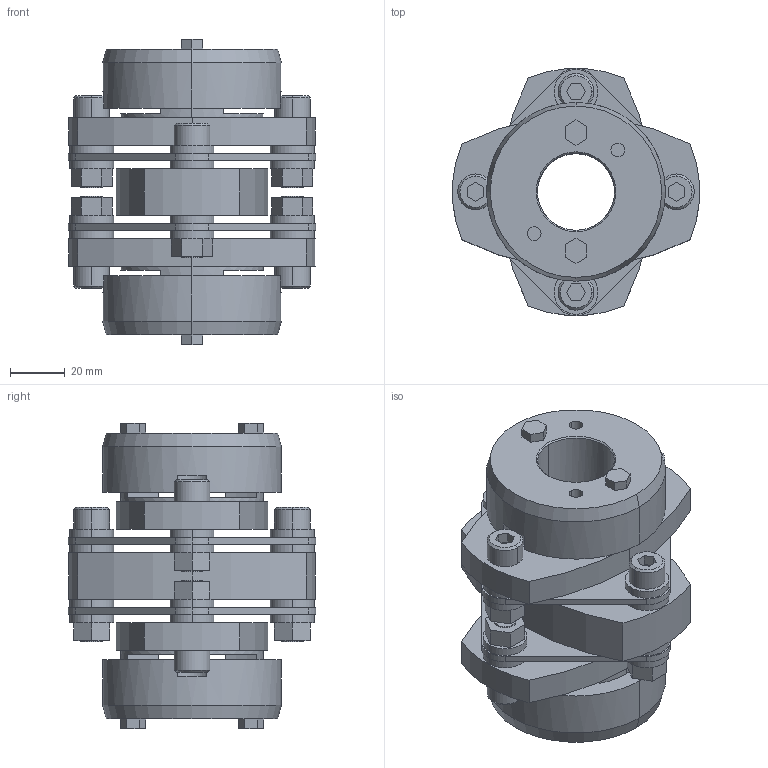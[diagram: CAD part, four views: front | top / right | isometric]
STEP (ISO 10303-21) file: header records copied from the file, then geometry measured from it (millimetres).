
FILE_DESCRIPTION((''),'2;1');
FILE_NAME('LCD-90T7-28×28.stp','2015-11-01T19:32:24',(''),(''),'AutoCAD STEP 2000i','AutoCAD 2000i',', , ');
FILE_SCHEMA(('CONFIG_CONTROL_DESIGN'));
Length unit declared in the file: millimetre
Products named in the file (9): LCD-90T7-30×30; 忣兜1; LC90T7-T030-1; LC90T7-T030; LC90T7-T025-1; LC90T7-T025; LC90T7-T019-1; LC90T7-T019; LCD90-ITA
Assembly tree (8 placements, depth 2):
  LCD-90T7-30×30
    忣兜1
    LC90T7-T030-1
    LC90T7-T030
    LC90T7-T025-1
    LC90T7-T025
    LC90T7-T019-1
    LC90T7-T019
    LCD90-ITA
Bounding box: 90 x 89.94 x 111 mm (x, y, z)
Volume: 283949.7 mm3; surface area: 75764 mm2
Topology: 1 solids, 1 shells, 314 faces, 768 edges, 504 vertices
Faces by surface type: plane 166, cylinder 124, cone 24
Entity records: 9555 total; most frequent: DIRECTION 1710, CARTESIAN_POINT 1595, ORIENTED_EDGE 1536, EDGE_CURVE 768, AXIS2_PLACEMENT_3D 619, VERTEX_POINT 504, VECTOR 472, LINE 472
